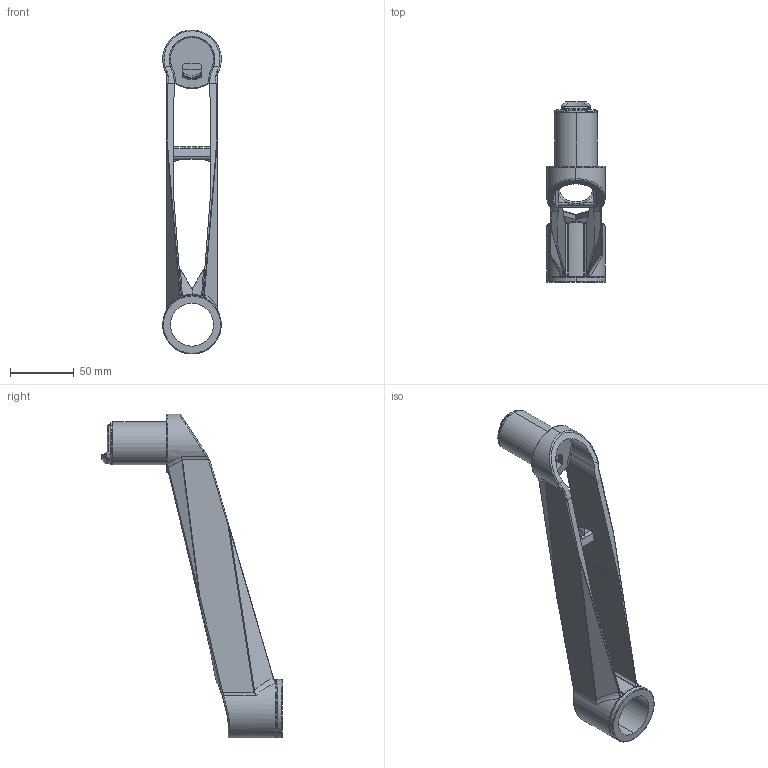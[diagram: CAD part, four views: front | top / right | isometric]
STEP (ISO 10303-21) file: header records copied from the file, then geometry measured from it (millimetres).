
FILE_DESCRIPTION((''),'2;1');
FILE_NAME('M2020_ASM','2013-04-24T',('B0540'),(''),'PRO/ENGINEER BY PARAMETRIC TECHNOLOGY CORPORATION, 2012360','PRO/ENGINEER BY PARAMETRIC TECHNOLOGY CORPORATION, 2012360','');
FILE_SCHEMA(('CONFIG_CONTROL_DESIGN'));
Length unit declared in the file: millimetre
Products named in the file (7): EM35111-14; EM35111-59; EM35111-54; EM35111-38; EM35111-53; EM35111-07_ASM; M2020_ASM
Assembly tree (6 placements, depth 3):
  M2020_ASM
    EM35111-14
    EM35111-59
    EM35111-07_ASM
      EM35111-54
      EM35111-38
      EM35111-53
Bounding box: 46 x 141.31 x 254.25 mm (x, y, z)
Volume: 161107 mm3; surface area: 82073.9 mm2
Topology: 5 solids, 5 shells, 595 faces, 1489 edges, 897 vertices
Faces by surface type: bspline 253, plane 130, cylinder 125, torus 53, cone 29, sphere 5
Entity records: 36479 total; most frequent: CARTESIAN_POINT 24311, ORIENTED_EDGE 2940, DIRECTION 1792, EDGE_CURVE 1470, VERTEX_POINT 897, B_SPLINE_CURVE_WITH_KNOTS 747, AXIS2_PLACEMENT_3D 711, EDGE_LOOP 621
